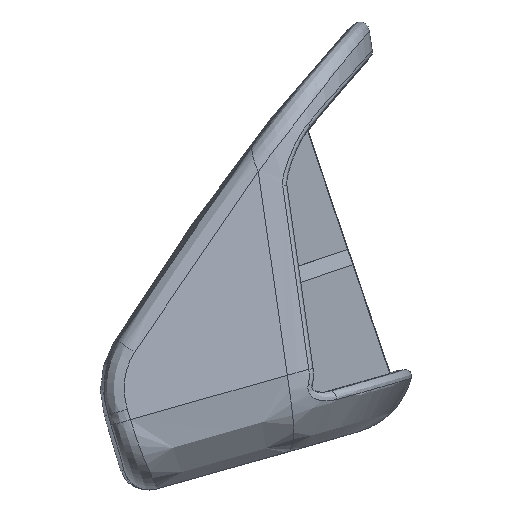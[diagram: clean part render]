
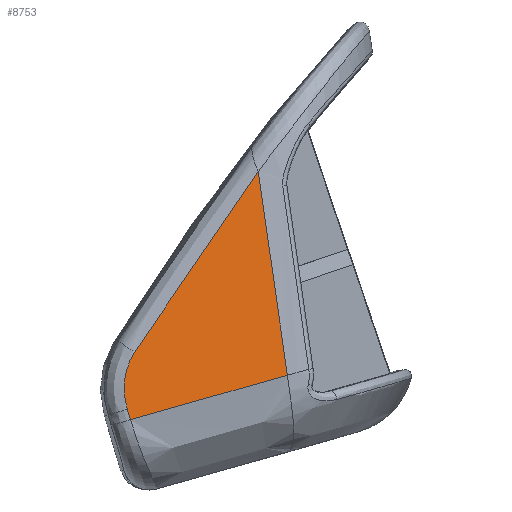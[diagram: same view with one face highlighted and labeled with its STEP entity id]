
A CAD part, front view. The second image highlights one B-rep face of the part: STEP entity #8753.
In plain terms, the highlighted planar face has unit normal (0.172, -0.985, 0.025).
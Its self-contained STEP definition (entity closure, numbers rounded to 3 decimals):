
#8729=AXIS2_PLACEMENT_3D('Plane Axis2P3D',#8726,#8727,#8728) ;
#6739=CARTESIAN_POINT('Control Point',(-546.474,-783.36,469.567)) ;
#6740=CARTESIAN_POINT('Control Point',(-548.433,-783.767,466.983)) ;
#6741=CARTESIAN_POINT('Control Point',(-550.325,-784.163,464.339)) ;
#6742=CARTESIAN_POINT('Control Point',(-552.15,-784.548,461.653)) ;
#6743=CARTESIAN_POINT('Control Point',(-553.919,-784.925,458.926)) ;
#6744=CARTESIAN_POINT('Control Point',(-555.636,-785.293,456.165)) ;
#6745=CARTESIAN_POINT('Vertex',(-555.637,-785.293,456.165)) ;
#6747=CARTESIAN_POINT('Vertex',(-546.474,-783.36,469.567)) ;
#6809=CARTESIAN_POINT('Vertex',(-556.167,-785.491,451.94)) ;
#6813=CARTESIAN_POINT('Control Point',(-556.171,-785.491,451.955)) ;
#6814=CARTESIAN_POINT('Control Point',(-556.296,-785.503,452.378)) ;
#6815=CARTESIAN_POINT('Control Point',(-556.425,-785.509,453.025)) ;
#6816=CARTESIAN_POINT('Control Point',(-556.462,-785.493,453.908)) ;
#6817=CARTESIAN_POINT('Control Point',(-556.305,-785.444,454.796)) ;
#6818=CARTESIAN_POINT('Control Point',(-555.968,-785.365,455.597)) ;
#6819=CARTESIAN_POINT('Control Point',(-555.749,-785.317,455.984)) ;
#6820=CARTESIAN_POINT('Control Point',(-555.637,-785.293,456.165)) ;
#6855=CARTESIAN_POINT('Control Point',(-555.941,-785.47,451.177)) ;
#6856=CARTESIAN_POINT('Control Point',(-555.987,-785.475,451.331)) ;
#6857=CARTESIAN_POINT('Control Point',(-556.03,-785.479,451.479)) ;
#6858=CARTESIAN_POINT('Control Point',(-556.077,-785.483,451.638)) ;
#6859=CARTESIAN_POINT('Control Point',(-556.121,-785.487,451.786)) ;
#6860=CARTESIAN_POINT('Control Point',(-556.167,-785.491,451.94)) ;
#6861=CARTESIAN_POINT('Vertex',(-555.941,-785.47,451.177)) ;
#8726=CARTESIAN_POINT('Axis2P3D Location',(-546.66,-783.322,472.426)) ;
#8732=CARTESIAN_POINT('Control Point',(-544.324,-783.361,454.462)) ;
#8733=CARTESIAN_POINT('Control Point',(-546.647,-783.783,453.805)) ;
#8734=CARTESIAN_POINT('Control Point',(-548.971,-784.205,453.148)) ;
#8735=CARTESIAN_POINT('Control Point',(-551.294,-784.627,452.491)) ;
#8736=CARTESIAN_POINT('Control Point',(-553.618,-785.048,451.834)) ;
#8737=CARTESIAN_POINT('Control Point',(-555.941,-785.47,451.177)) ;
#8738=CARTESIAN_POINT('Vertex',(-544.324,-783.361,454.462)) ;
#8741=CARTESIAN_POINT('Line Origine',(-545.399,-783.36,462.014)) ;
#8727=DIRECTION('Axis2P3D Direction',(-0.172,0.985,-0.025)) ;
#8728=DIRECTION('Axis2P3D XDirection',(0.141,0.,-0.99)) ;
#8742=DIRECTION('Vector Direction',(0.141,0.,-0.99)) ;
#8743=VECTOR('Line Direction',#8742,1.) ;
#8747=ORIENTED_EDGE('',*,*,#6821,.T.) ;
#8748=ORIENTED_EDGE('',*,*,#6863,.F.) ;
#8749=ORIENTED_EDGE('',*,*,#8740,.F.) ;
#8750=ORIENTED_EDGE('',*,*,#8745,.F.) ;
#8751=ORIENTED_EDGE('',*,*,#6749,.F.) ;
#8753=ADVANCED_FACE('\X2\51E04F554F53\X0\.3',(#8752),#8730,.F.) ;
#8731=B_SPLINE_CURVE_WITH_KNOTS('',5,(#8732,#8733,#8734,#8735,#8736,#8737),.UNSPECIFIED.,.F.,.U.,(6,6),(0.,17.332),.UNSPECIFIED.) ;
#6749=EDGE_CURVE('',#6746,#6748,#6738,.F.) ;
#6821=EDGE_CURVE('',#6746,#6810,#6812,.F.) ;
#6863=EDGE_CURVE('',#6862,#6810,#6854,.T.) ;
#8740=EDGE_CURVE('',#8739,#6862,#8731,.T.) ;
#8745=EDGE_CURVE('',#6748,#8739,#8744,.T.) ;
#8746=EDGE_LOOP('',(#8747,#8748,#8749,#8750,#8751)) ;
#8752=FACE_OUTER_BOUND('',#8746,.T.) ;
#8744=LINE('Line',#8741,#8743) ;
#8730=PLANE('',#8729) ;
#6746=VERTEX_POINT('',#6745) ;
#6748=VERTEX_POINT('',#6747) ;
#6810=VERTEX_POINT('',#6809) ;
#6862=VERTEX_POINT('',#6861) ;
#8739=VERTEX_POINT('',#8738) ;
#6738=(BOUNDED_CURVE()B_SPLINE_CURVE(5,(#6739,#6740,#6741,#6742,#6743,#6744),.UNSPECIFIED.,.F.,.U.)B_SPLINE_CURVE_WITH_KNOTS((6,6),(0.,17.092),.UNSPECIFIED.)CURVE()GEOMETRIC_REPRESENTATION_ITEM()RATIONAL_B_SPLINE_CURVE((1.,1.,1.,1.,1.,1.))REPRESENTATION_ITEM('')) ;
#6812=(BOUNDED_CURVE()B_SPLINE_CURVE(5,(#6813,#6814,#6815,#6816,#6817,#6818,#6819,#6820),.UNSPECIFIED.,.F.,.U.)B_SPLINE_CURVE_WITH_KNOTS((6,1,1,6),(0.,2.623,3.935,5.247),.UNSPECIFIED.)CURVE()GEOMETRIC_REPRESENTATION_ITEM()RATIONAL_B_SPLINE_CURVE((1.,1.,1.,1.,1.,1.,1.,1.))REPRESENTATION_ITEM('')) ;
#6854=(BOUNDED_CURVE()B_SPLINE_CURVE(5,(#6855,#6856,#6857,#6858,#6859,#6860),.UNSPECIFIED.,.F.,.U.)B_SPLINE_CURVE_WITH_KNOTS((6,6),(0.,0.786),.UNSPECIFIED.)CURVE()GEOMETRIC_REPRESENTATION_ITEM()RATIONAL_B_SPLINE_CURVE((1.,1.,1.,1.,1.,1.))REPRESENTATION_ITEM('')) ;
